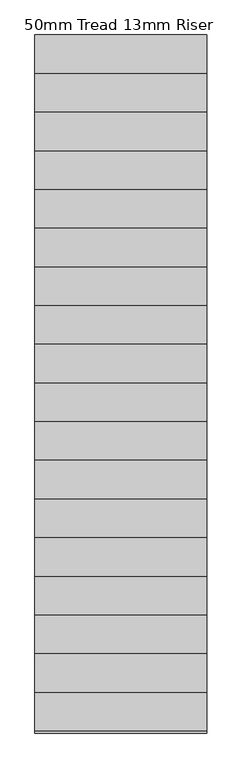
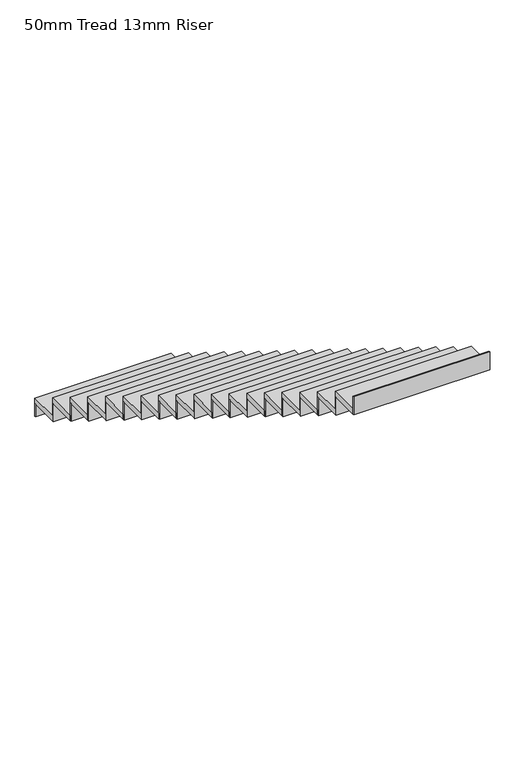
"""IFC4 building model written with IfcOpenShell, lengths in millimetres: stair flight geometry, 50mm Tread 13mm Riser."""

from ifc_helpers import new_model, si_unit, frame, origin, place, context, project, spatial, polyline, outline, extrude, source, transform, mapped, element, save


def stair_flight_50mm_tread_13mm_riser_d4d06f7f(model_context):
    return source(origin(), model_context, "Body", "SweptSolid", [
        extrude(outline(polyline([(-118450.5917799, 19954.9703267), (-118450.5917799, 19967.4703267), (-117250.5917799, 19967.4703267), (-117250.5917799, 19954.9703267), (-118450.5917799, 19954.9703267)])), frame((0.0, 0.0, 47670.0), z_axis=(0.0, 0.0, 1.0), x_axis=(1.0, 0.0, 0.0)), (0.0, 0.0, 1.0), 117.5),
        extrude(outline(polyline([(-117250.5917799, 19697.4703267), (-118450.5917799, 19697.4703267), (-118450.5917799, 19967.4703267), (-117250.5917799, 19967.4703267), (-117250.5917799, 19697.4703267)])), frame((0.0, 0.0, 47787.5), z_axis=(0.0, 0.0, 1.0), x_axis=(1.0, 0.0, 0.0)), (0.0, 0.0, 1.0), 50.0),
        extrude(outline(polyline([(-118450.5917799, 19684.9703267), (-118450.5917799, 19697.4703267), (-117250.5917799, 19697.4703267), (-117250.5917799, 19684.9703267), (-118450.5917799, 19684.9703267)])), frame((0.0, 0.0, 47787.5), z_axis=(0.0, 0.0, 1.0), x_axis=(1.0, 0.0, 0.0)), (0.0, 0.0, 1.0), 167.5),
        extrude(outline(polyline([(-117250.5917799, 19427.4703267), (-118450.5917799, 19427.4703267), (-118450.5917799, 19697.4703267), (-117250.5917799, 19697.4703267), (-117250.5917799, 19427.4703267)])), frame((0.0, 0.0, 47955.0), z_axis=(0.0, 0.0, 1.0), x_axis=(1.0, 0.0, 0.0)), (0.0, 0.0, 1.0), 50.0),
        extrude(outline(polyline([(-118450.5917799, 19414.9703267), (-118450.5917799, 19427.4703267), (-117250.5917799, 19427.4703267), (-117250.5917799, 19414.9703267), (-118450.5917799, 19414.9703267)])), frame((0.0, 0.0, 47955.0), z_axis=(0.0, 0.0, 1.0), x_axis=(1.0, 0.0, 0.0)), (0.0, 0.0, 1.0), 167.5),
        extrude(outline(polyline([(-117250.5917799, 19157.4703267), (-118450.5917799, 19157.4703267), (-118450.5917799, 19427.4703267), (-117250.5917799, 19427.4703267), (-117250.5917799, 19157.4703267)])), frame((0.0, 0.0, 48122.5), z_axis=(0.0, 0.0, 1.0), x_axis=(1.0, 0.0, 0.0)), (0.0, 0.0, 1.0), 50.0),
        extrude(outline(polyline([(-118450.5917799, 19144.9703267), (-118450.5917799, 19157.4703267), (-117250.5917799, 19157.4703267), (-117250.5917799, 19144.9703267), (-118450.5917799, 19144.9703267)])), frame((0.0, 0.0, 48122.5), z_axis=(0.0, 0.0, 1.0), x_axis=(1.0, 0.0, 0.0)), (0.0, 0.0, 1.0), 167.5),
        extrude(outline(polyline([(-117250.5917799, 18887.4703267), (-118450.5917799, 18887.4703267), (-118450.5917799, 19157.4703267), (-117250.5917799, 19157.4703267), (-117250.5917799, 18887.4703267)])), frame((0.0, 0.0, 48290.0), z_axis=(0.0, 0.0, 1.0), x_axis=(1.0, 0.0, 0.0)), (0.0, 0.0, 1.0), 50.0),
        extrude(outline(polyline([(-118450.5917799, 18874.9703267), (-118450.5917799, 18887.4703267), (-117250.5917799, 18887.4703267), (-117250.5917799, 18874.9703267), (-118450.5917799, 18874.9703267)])), frame((0.0, 0.0, 48290.0), z_axis=(0.0, 0.0, 1.0), x_axis=(1.0, 0.0, 0.0)), (0.0, 0.0, 1.0), 167.5),
        extrude(outline(polyline([(-117250.5917799, 18617.4703267), (-118450.5917799, 18617.4703267), (-118450.5917799, 18887.4703267), (-117250.5917799, 18887.4703267), (-117250.5917799, 18617.4703267)])), frame((0.0, 0.0, 48457.5), z_axis=(0.0, 0.0, 1.0), x_axis=(1.0, 0.0, 0.0)), (0.0, 0.0, 1.0), 50.0),
        extrude(outline(polyline([(-118450.5917799, 18604.9703267), (-118450.5917799, 18617.4703267), (-117250.5917799, 18617.4703267), (-117250.5917799, 18604.9703267), (-118450.5917799, 18604.9703267)])), frame((0.0, 0.0, 48457.5), z_axis=(0.0, 0.0, 1.0), x_axis=(1.0, 0.0, 0.0)), (0.0, 0.0, 1.0), 167.5),
        extrude(outline(polyline([(-117250.5917799, 18347.4703267), (-118450.5917799, 18347.4703267), (-118450.5917799, 18617.4703267), (-117250.5917799, 18617.4703267), (-117250.5917799, 18347.4703267)])), frame((0.0, 0.0, 48625.0), z_axis=(0.0, 0.0, 1.0), x_axis=(1.0, 0.0, 0.0)), (0.0, 0.0, 1.0), 50.0),
        extrude(outline(polyline([(-118450.5917799, 18334.9703267), (-118450.5917799, 18347.4703267), (-117250.5917799, 18347.4703267), (-117250.5917799, 18334.9703267), (-118450.5917799, 18334.9703267)])), frame((0.0, 0.0, 48625.0), z_axis=(0.0, 0.0, 1.0), x_axis=(1.0, 0.0, 0.0)), (0.0, 0.0, 1.0), 167.5),
        extrude(outline(polyline([(-117250.5917799, 18077.4703267), (-118450.5917799, 18077.4703267), (-118450.5917799, 18347.4703267), (-117250.5917799, 18347.4703267), (-117250.5917799, 18077.4703267)])), frame((0.0, 0.0, 48792.5), z_axis=(0.0, 0.0, 1.0), x_axis=(1.0, 0.0, 0.0)), (0.0, 0.0, 1.0), 50.0),
        extrude(outline(polyline([(-118450.5917799, 18064.9703267), (-118450.5917799, 18077.4703267), (-117250.5917799, 18077.4703267), (-117250.5917799, 18064.9703267), (-118450.5917799, 18064.9703267)])), frame((0.0, 0.0, 48792.5), z_axis=(0.0, 0.0, 1.0), x_axis=(1.0, 0.0, 0.0)), (0.0, 0.0, 1.0), 167.5),
        extrude(outline(polyline([(-117250.5917799, 17807.4703267), (-118450.5917799, 17807.4703267), (-118450.5917799, 18077.4703267), (-117250.5917799, 18077.4703267), (-117250.5917799, 17807.4703267)])), frame((0.0, 0.0, 48960.0), z_axis=(0.0, 0.0, 1.0), x_axis=(1.0, 0.0, 0.0)), (0.0, 0.0, 1.0), 50.0),
        extrude(outline(polyline([(-118450.5917799, 17794.9703267), (-118450.5917799, 17807.4703267), (-117250.5917799, 17807.4703267), (-117250.5917799, 17794.9703267), (-118450.5917799, 17794.9703267)])), frame((0.0, 0.0, 48960.0), z_axis=(0.0, 0.0, 1.0), x_axis=(1.0, 0.0, 0.0)), (0.0, 0.0, 1.0), 167.5),
        extrude(outline(polyline([(-117250.5917799, 17537.4703267), (-118450.5917799, 17537.4703267), (-118450.5917799, 17807.4703267), (-117250.5917799, 17807.4703267), (-117250.5917799, 17537.4703267)])), frame((0.0, 0.0, 49127.5), z_axis=(0.0, 0.0, 1.0), x_axis=(1.0, 0.0, 0.0)), (0.0, 0.0, 1.0), 50.0),
        extrude(outline(polyline([(-118450.5917799, 17524.9703267), (-118450.5917799, 17537.4703267), (-117250.5917799, 17537.4703267), (-117250.5917799, 17524.9703267), (-118450.5917799, 17524.9703267)])), frame((0.0, 0.0, 49127.5), z_axis=(0.0, 0.0, 1.0), x_axis=(1.0, 0.0, 0.0)), (0.0, 0.0, 1.0), 167.5),
        extrude(outline(polyline([(-117250.5917799, 17267.4703267), (-118450.5917799, 17267.4703267), (-118450.5917799, 17537.4703267), (-117250.5917799, 17537.4703267), (-117250.5917799, 17267.4703267)])), frame((0.0, 0.0, 49295.0), z_axis=(0.0, 0.0, 1.0), x_axis=(1.0, 0.0, 0.0)), (0.0, 0.0, 1.0), 50.0),
        extrude(outline(polyline([(-118450.5917799, 17254.9703267), (-118450.5917799, 17267.4703267), (-117250.5917799, 17267.4703267), (-117250.5917799, 17254.9703267), (-118450.5917799, 17254.9703267)])), frame((0.0, 0.0, 49295.0), z_axis=(0.0, 0.0, 1.0), x_axis=(1.0, 0.0, 0.0)), (0.0, 0.0, 1.0), 167.5),
        extrude(outline(polyline([(-117250.5917799, 16997.4703267), (-118450.5917799, 16997.4703267), (-118450.5917799, 17267.4703267), (-117250.5917799, 17267.4703267), (-117250.5917799, 16997.4703267)])), frame((0.0, 0.0, 49462.5), z_axis=(0.0, 0.0, 1.0), x_axis=(1.0, 0.0, 0.0)), (0.0, 0.0, 1.0), 50.0),
        extrude(outline(polyline([(-118450.5917799, 16984.9703267), (-118450.5917799, 16997.4703267), (-117250.5917799, 16997.4703267), (-117250.5917799, 16984.9703267), (-118450.5917799, 16984.9703267)])), frame((0.0, 0.0, 49462.5), z_axis=(0.0, 0.0, 1.0), x_axis=(1.0, 0.0, 0.0)), (0.0, 0.0, 1.0), 167.5),
        extrude(outline(polyline([(-117250.5917799, 16727.4703267), (-118450.5917799, 16727.4703267), (-118450.5917799, 16997.4703267), (-117250.5917799, 16997.4703267), (-117250.5917799, 16727.4703267)])), frame((0.0, 0.0, 49630.0), z_axis=(0.0, 0.0, 1.0), x_axis=(1.0, 0.0, 0.0)), (0.0, 0.0, 1.0), 50.0),
        extrude(outline(polyline([(-118450.5917799, 16714.9703267), (-118450.5917799, 16727.4703267), (-117250.5917799, 16727.4703267), (-117250.5917799, 16714.9703267), (-118450.5917799, 16714.9703267)])), frame((0.0, 0.0, 49630.0), z_axis=(0.0, 0.0, 1.0), x_axis=(1.0, 0.0, 0.0)), (0.0, 0.0, 1.0), 167.5),
        extrude(outline(polyline([(-117250.5917799, 16457.4703267), (-118450.5917799, 16457.4703267), (-118450.5917799, 16727.4703267), (-117250.5917799, 16727.4703267), (-117250.5917799, 16457.4703267)])), frame((0.0, 0.0, 49797.5), z_axis=(0.0, 0.0, 1.0), x_axis=(1.0, 0.0, 0.0)), (0.0, 0.0, 1.0), 50.0),
        extrude(outline(polyline([(-118450.5917799, 16444.9703267), (-118450.5917799, 16457.4703267), (-117250.5917799, 16457.4703267), (-117250.5917799, 16444.9703267), (-118450.5917799, 16444.9703267)])), frame((0.0, 0.0, 49797.5), z_axis=(0.0, 0.0, 1.0), x_axis=(1.0, 0.0, 0.0)), (0.0, 0.0, 1.0), 167.5),
        extrude(outline(polyline([(-117250.5917799, 16187.4703267), (-118450.5917799, 16187.4703267), (-118450.5917799, 16457.4703267), (-117250.5917799, 16457.4703267), (-117250.5917799, 16187.4703267)])), frame((0.0, 0.0, 49965.0), z_axis=(0.0, 0.0, 1.0), x_axis=(1.0, 0.0, 0.0)), (0.0, 0.0, 1.0), 50.0),
        extrude(outline(polyline([(-118450.5917799, 16174.9703267), (-118450.5917799, 16187.4703267), (-117250.5917799, 16187.4703267), (-117250.5917799, 16174.9703267), (-118450.5917799, 16174.9703267)])), frame((0.0, 0.0, 49965.0), z_axis=(0.0, 0.0, 1.0), x_axis=(1.0, 0.0, 0.0)), (0.0, 0.0, 1.0), 167.5),
        extrude(outline(polyline([(-117250.5917799, 15917.4703267), (-118450.5917799, 15917.4703267), (-118450.5917799, 16187.4703267), (-117250.5917799, 16187.4703267), (-117250.5917799, 15917.4703267)])), frame((0.0, 0.0, 50132.5), z_axis=(0.0, 0.0, 1.0), x_axis=(1.0, 0.0, 0.0)), (0.0, 0.0, 1.0), 50.0),
        extrude(outline(polyline([(-118450.5917799, 15904.9703267), (-118450.5917799, 15917.4703267), (-117250.5917799, 15917.4703267), (-117250.5917799, 15904.9703267), (-118450.5917799, 15904.9703267)])), frame((0.0, 0.0, 50132.5), z_axis=(0.0, 0.0, 1.0), x_axis=(1.0, 0.0, 0.0)), (0.0, 0.0, 1.0), 167.5),
        extrude(outline(polyline([(-117250.5917799, 15647.4703267), (-118450.5917799, 15647.4703267), (-118450.5917799, 15917.4703267), (-117250.5917799, 15917.4703267), (-117250.5917799, 15647.4703267)])), frame((0.0, 0.0, 50300.0), z_axis=(0.0, 0.0, 1.0), x_axis=(1.0, 0.0, 0.0)), (0.0, 0.0, 1.0), 50.0),
        extrude(outline(polyline([(-118450.5917799, 15634.9703267), (-118450.5917799, 15647.4703267), (-117250.5917799, 15647.4703267), (-117250.5917799, 15634.9703267), (-118450.5917799, 15634.9703267)])), frame((0.0, 0.0, 50300.0), z_axis=(0.0, 0.0, 1.0), x_axis=(1.0, 0.0, 0.0)), (0.0, 0.0, 1.0), 167.5),
        extrude(outline(polyline([(-117250.5917799, 15377.4703267), (-118450.5917799, 15377.4703267), (-118450.5917799, 15647.4703267), (-117250.5917799, 15647.4703267), (-117250.5917799, 15377.4703267)])), frame((0.0, 0.0, 50467.5), z_axis=(0.0, 0.0, 1.0), x_axis=(1.0, 0.0, 0.0)), (0.0, 0.0, 1.0), 50.0),
        extrude(outline(polyline([(-118450.5917799, 15364.9703267), (-118450.5917799, 15377.4703267), (-117250.5917799, 15377.4703267), (-117250.5917799, 15364.9703267), (-118450.5917799, 15364.9703267)])), frame((0.0, 0.0, 50467.5), z_axis=(0.0, 0.0, 1.0), x_axis=(1.0, 0.0, 0.0)), (0.0, 0.0, 1.0), 167.5),
        extrude(outline(polyline([(-118450.5917799, 15094.9703267), (-118450.5917799, 15107.4703267), (-117250.5917799, 15107.4703267), (-117250.5917799, 15094.9703267), (-118450.5917799, 15094.9703267)])), frame((0.0, 0.0, 50635.0), z_axis=(0.0, 0.0, 1.0), x_axis=(1.0, 0.0, 0.0)), (0.0, 0.0, 1.0), 167.5),
        extrude(outline(polyline([(-117250.5917799, 15107.4703267), (-118450.5917799, 15107.4703267), (-118450.5917799, 15377.4703267), (-117250.5917799, 15377.4703267), (-117250.5917799, 15107.4703267)])), frame((0.0, 0.0, 50635.0), z_axis=(0.0, 0.0, 1.0), x_axis=(1.0, 0.0, 0.0)), (0.0, 0.0, 1.0), 50.0),
    ])


if __name__ == "__main__":
    model = new_model("IFC4")
    model_context = context("Model", 3, world=origin())
    ifc_project = project(units=[si_unit("LENGTHUNIT", "METRE", prefix="MILLI")], contexts=[model_context])
    site = spatial("IfcSite", under=ifc_project)
    building = spatial("IfcBuilding", under=site)
    placement = place(None, origin())
    stair_flight_50mm_tread_13mm_riser_shape = stair_flight_50mm_tread_13mm_riser_d4d06f7f(model_context)
    element("IfcStairFlight", 1, ObjectType="50mm Tread 13mm Riser", at=placement, inside=building, context=model_context, shape_type="MappedRepresentation", body=[
        mapped(stair_flight_50mm_tread_13mm_riser_shape, transform((0.0, 0.0, 0.0), x_axis=(1.0, 0.0, 0.0), y_axis=(0.0, 1.0, 0.0), z_axis=(0.0, 0.0, 1.0))),
    ])
    save(model, "model.ifc")
